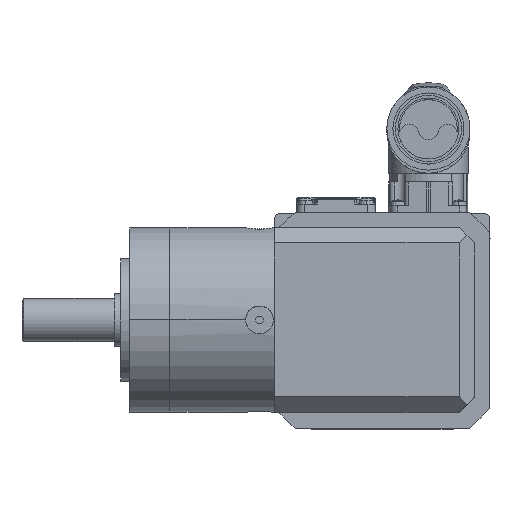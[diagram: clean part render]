
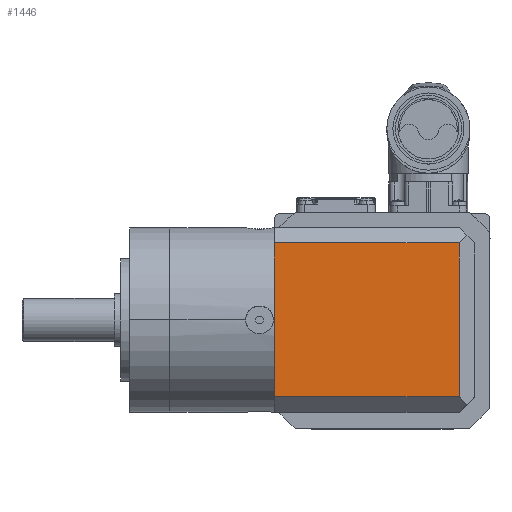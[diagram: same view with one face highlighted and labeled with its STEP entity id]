
A CAD part, top view. The second image highlights one B-rep face of the part: STEP entity #1446.
In plain terms, the highlighted planar face has unit normal (0, 0, 1).
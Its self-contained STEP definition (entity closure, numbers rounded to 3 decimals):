
#1446=ADVANCED_FACE('',(#3681),#3682,.T.);
#3681=FACE_OUTER_BOUND('',#6737,.T.);
#3682=PLANE('',#6738);
#6737=EDGE_LOOP('',(#10903,#10904,#10905,#10906));
#6738=AXIS2_PLACEMENT_3D('',#10907,#10908,#10909);
#10903=ORIENTED_EDGE('',*,*,#18752,.F.);
#10904=ORIENTED_EDGE('',*,*,#18753,.T.);
#10905=ORIENTED_EDGE('',*,*,#18342,.T.);
#10906=ORIENTED_EDGE('',*,*,#18750,.F.);
#10907=CARTESIAN_POINT('',(47.0,30.0,30.0));
#10908=DIRECTION('',(0.0,-0.0,1.0));
#10909=DIRECTION('',(0.0,1.0,0.0));
#18342=EDGE_CURVE('',#21980,#21978,#21981,.T.);
#18750=EDGE_CURVE('',#22565,#21978,#22567,.T.);
#18752=EDGE_CURVE('',#22569,#22565,#22570,.T.);
#18753=EDGE_CURVE('',#22569,#21980,#22571,.T.);
#21978=VERTEX_POINT('',#27392);
#21980=VERTEX_POINT('',#27395);
#21981=LINE('',#27396,#27397);
#22565=VERTEX_POINT('',#28211);
#22567=LINE('',#28214,#28215);
#22569=VERTEX_POINT('',#28217);
#22570=LINE('',#28218,#28219);
#22571=LINE('',#28220,#28221);
#27392=CARTESIAN_POINT('',(47.0,-25.0,30.0));
#27395=CARTESIAN_POINT('',(47.0,25.0,30.0));
#27396=CARTESIAN_POINT('',(47.0,25.0,30.0));
#27397=VECTOR('',#36016,50.0);
#28211=CARTESIAN_POINT('',(107.0,-25.0,30.0));
#28214=CARTESIAN_POINT('',(107.0,-25.0,30.0));
#28215=VECTOR('',#36490,60.0);
#28217=CARTESIAN_POINT('',(107.0,25.0,30.0));
#28218=CARTESIAN_POINT('',(107.0,25.0,30.0));
#28219=VECTOR('',#36491,50.0);
#28220=CARTESIAN_POINT('',(107.0,25.0,30.0));
#28221=VECTOR('',#36492,60.0);
#36016=DIRECTION('',(0.0,-1.0,0.0));
#36490=DIRECTION('',(-1.0,0.0,0.0));
#36491=DIRECTION('',(0.0,-1.0,0.0));
#36492=DIRECTION('',(-1.0,0.0,0.0));
